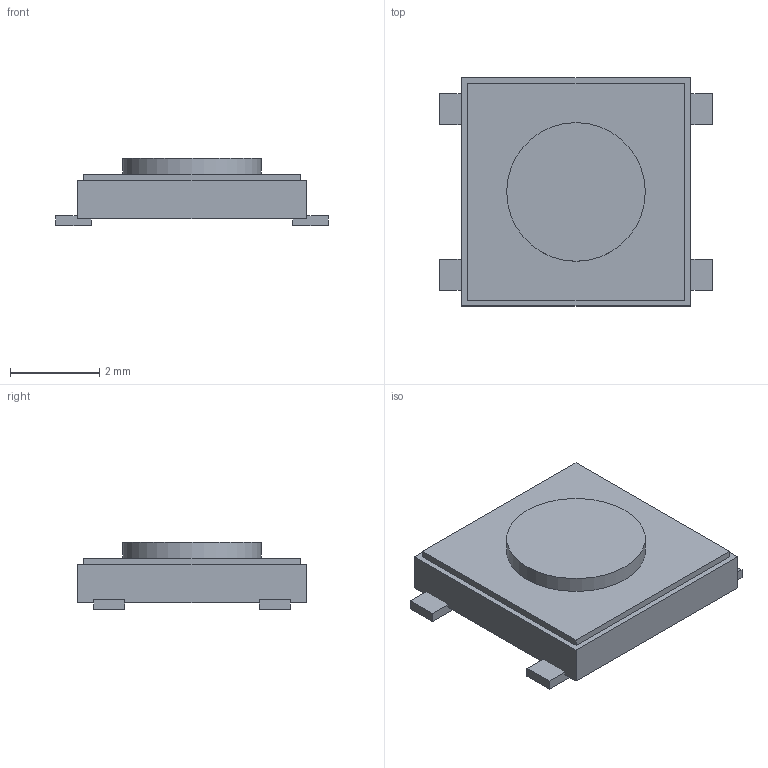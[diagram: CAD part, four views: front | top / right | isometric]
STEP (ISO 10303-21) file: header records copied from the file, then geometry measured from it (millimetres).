
FILE_DESCRIPTION(('Open CASCADE Model'),'2;1');
FILE_NAME('Open CASCADE Shape Model','2026-10-09T18:49:11',('Author'),( 'Open CASCADE'),'Open CASCADE STEP processor 7.9','Open CASCADE 7.9' ,'Unknown');
FILE_SCHEMA(('AUTOMOTIVE_DESIGN { 1 0 10303 214 1 1 1 1 }'));
Length unit declared in the file: millimetre
Products named in the file (8): XKB_TS1187A; base; cap; actuator; lead00; lead01; lead10; lead11
Assembly tree (7 placements, depth 2):
  XKB_TS1187A
    base
    cap
    actuator
    lead00
    lead01
    lead10
    lead11
Bounding box: 6.1 x 5.1 x 1.5 mm (x, y, z)
Volume: 28.8 mm3; surface area: 144.9 mm2
Topology: 7 solids, 7 shells, 39 faces, 75 edges, 50 vertices
Faces by surface type: plane 38, cylinder 1
Full cylindrical faces by diameter (mm): 3.1 x1
Entity records: 2128 total; most frequent: CARTESIAN_POINT 322, DIRECTION 321, LINE 221, VECTOR 221, ORIENTED_EDGE 150, PCURVE 150, DEFINITIONAL_REPRESENTATION 150, EDGE_CURVE 75
